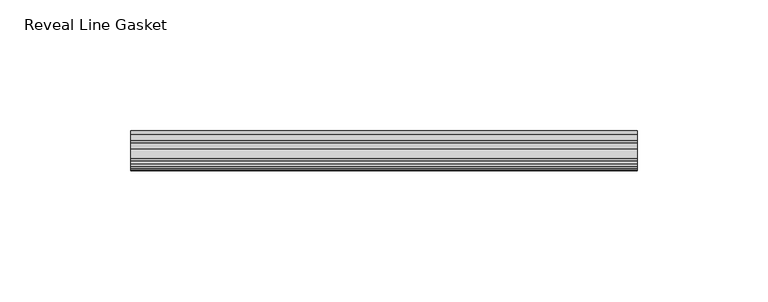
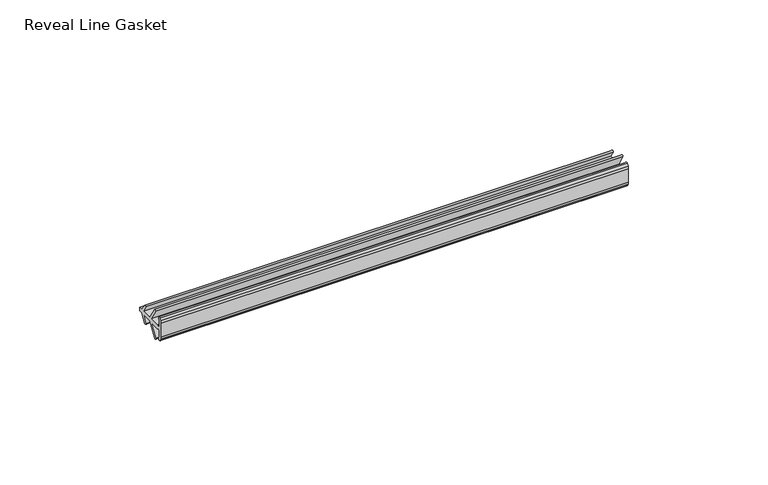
"""IFC4 building model written with IfcOpenShell, lengths in millimetres: proxy geometry, Accessories-Teknion-FHGR-AI_Healthcare-Reveal_Line_Gasket(Horizontal)-R2022 : Reveal Line Gasket."""

from ifc_helpers import new_model, si_unit, point, frame, frame_2d, origin, place, context, project, spatial, polyline, circle_curve, trimmed, segment, composite_curve, outline, extrude, source, transform, mapped, element, save


def reveal_line_gasket_2765f8e8(model_context):
    return source(origin(), model_context, "Body", "SweptSolid", [
        extrude(outline(composite_curve([segment(polyline([(-7.6326998, 1603.2), (-7.4091917, 1604.1554927), (-6.8813059, 1605.0884684)]), True, "CONTINUOUS"), segment(trimmed(circle_curve(frame_2d((-6.5243141, 1604.8864793)), 0.4101739), [point((-6.8813059, 1605.0884684))], [point((-6.1246704, 1604.7941347))], False, "CARTESIAN"), True, "CONTINUOUS"), segment(polyline([(-6.1246704, 1604.7941347), (-6.3626997, 1603.0979086), (-6.3626997, 1601.0654527)]), True, "CONTINUOUS"), segment(trimmed(circle_curve(frame_2d((-5.6959605, 1601.4819258)), 0.786124), [point((-6.3626997, 1601.0654527))], [point((-5.0926996, 1600.977875))], True, "CARTESIAN"), True, "CONTINUOUS"), segment(polyline([(-5.0926996, 1600.977875), (-0.7492996, 1600.977875), (-3.7293824, 1606.1395295)]), True, "CONTINUOUS"), segment(trimmed(circle_curve(frame_2d((-3.3132479, 1606.2049761)), 0.4212495), [point((-3.7293824, 1606.1395295))], [point((-3.0485022, 1606.5326358))], False, "CARTESIAN"), True, "CONTINUOUS"), segment(polyline([(-3.0485022, 1606.5326358), (0.5742594, 1600.977875), (4.8262978, 1600.977875), (3.1660374, 1603.8535297)]), True, "CONTINUOUS"), segment(trimmed(circle_curve(frame_2d((3.5978728, 1603.9118855)), 0.4357605), [point((3.1660374, 1603.8535297))], [point((3.864328, 1604.2566881))], False, "CARTESIAN"), True, "CONTINUOUS"), segment(polyline([(3.864328, 1604.2566881), (6.1944059, 1600.977875), (7.6326998, 1600.977875), (7.6326998, 1599.422125), (6.1944059, 1599.422125), (3.864328, 1596.1433119)]), True, "CONTINUOUS"), segment(trimmed(circle_curve(frame_2d((3.5978728, 1596.4881145)), 0.4357605), [point((3.864328, 1596.1433119))], [point((3.1660374, 1596.5464703))], False, "CARTESIAN"), True, "CONTINUOUS"), segment(polyline([(3.1660374, 1596.5464703), (4.8262978, 1599.422125), (0.5742594, 1599.422125), (-3.0485022, 1593.8673642)]), True, "CONTINUOUS"), segment(trimmed(circle_curve(frame_2d((-3.3132479, 1594.1950239)), 0.4212495), [point((-3.0485022, 1593.8673642))], [point((-3.7293824, 1594.2604705))], False, "CARTESIAN"), True, "CONTINUOUS"), segment(polyline([(-3.7293824, 1594.2604705), (-0.7492996, 1599.422125), (-5.0926996, 1599.422125)]), True, "CONTINUOUS"), segment(trimmed(circle_curve(frame_2d((-5.6959605, 1598.9180742)), 0.786124), [point((-5.0926996, 1599.422125))], [point((-6.3626997, 1599.3345473))], True, "CARTESIAN"), True, "CONTINUOUS"), segment(polyline([(-6.3626997, 1599.3345473), (-6.3626997, 1597.3020914), (-6.1246704, 1595.6058653)]), True, "CONTINUOUS"), segment(trimmed(circle_curve(frame_2d((-6.5243141, 1595.5135207)), 0.4101739), [point((-6.1246704, 1595.6058653))], [point((-6.8813059, 1595.3115316))], False, "CARTESIAN"), True, "CONTINUOUS"), segment(polyline([(-6.8813059, 1595.3115316), (-7.4091917, 1596.2445073), (-7.6326998, 1597.2), (-7.6326998, 1603.2)]), True, "CONTINUOUS")], self_intersect=False)), frame((-96.6216, 0.0, 0.0), z_axis=(1.0, 0.0, 0.0), x_axis=(0.0, 1.0, 0.0)), (0.0, 0.0, 1.0), 193.2432),
    ])


if __name__ == "__main__":
    model = new_model("IFC4")
    model_context = context("Model", 3, world=origin())
    ifc_project = project(units=[si_unit("LENGTHUNIT", "METRE", prefix="MILLI")], contexts=[model_context])
    site = spatial("IfcSite", under=ifc_project)
    building = spatial("IfcBuilding", under=site)
    placement = place(None, origin())
    reveal_line_gasket_shape = reveal_line_gasket_2765f8e8(model_context)
    element("IfcBuildingElementProxy", 1, Name="Accessories-Teknion-FHGR-AI_Healthcare-Reveal_Line_Gasket(Horizontal)-R2022 : Reveal Line Gasket", ObjectType="Accessories-Teknion-FHGR-AI_Healthcare-Reveal_Line_Gasket(Horizontal)-R2022 : Reveal Line Gasket", at=placement, inside=building, context=model_context, shape_type="MappedRepresentation", body=[
        mapped(reveal_line_gasket_shape, transform((0.0, 0.0, 0.0), x_axis=(1.0, 0.0, 0.0), y_axis=(0.0, 1.0, 0.0), z_axis=(0.0, 0.0, 1.0))),
    ])
    save(model, "model.ifc")
